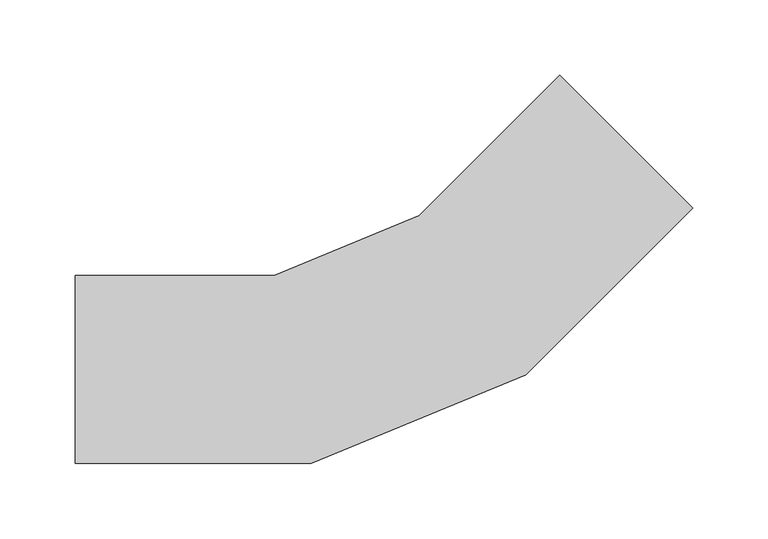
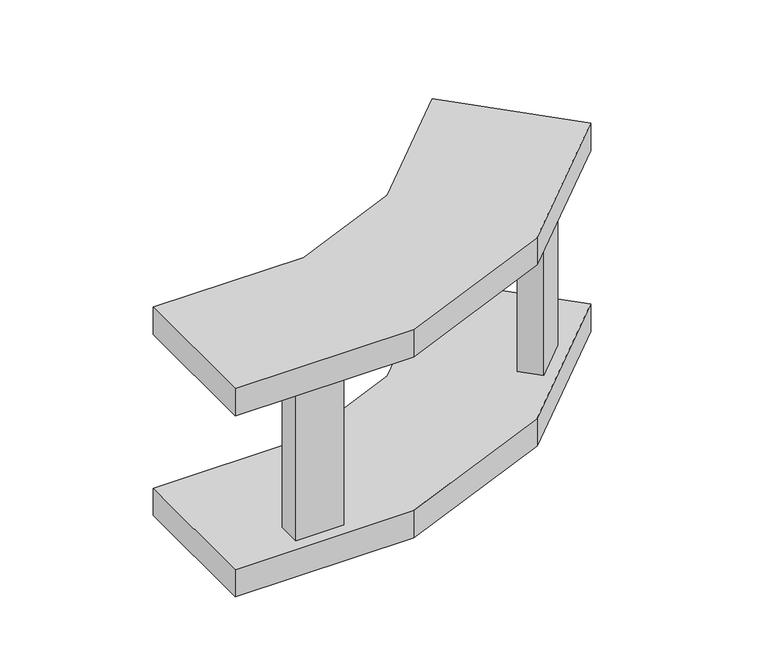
"""IFC4 building model written with IfcOpenShell, lengths in millimetres: cable carrier fitting geometry, Legrand_CableLadder_Swifts_Sapphire_InsideRiser-13 : Hot Dip Galvanised (after manufacture)."""

from ifc_helpers import new_model, si_unit, frame, origin, place, context, project, spatial, polyline, outline, extrude, source, transform, mapped, element, save


def cable_carrier_fitting_424e6675(model_context):
    return source(origin(), model_context, "Body", "SweptSolid", [
        extrude(outline(polyline([(-155.8265146, -31.5), (-113.8265146, -31.5), (-113.8265146, -52.5), (-155.8265146, -52.5), (-155.8265146, -31.5)])), frame((0.0, 0.0, -71.5), z_axis=(0.0, 0.0, 1.0), x_axis=(1.0, 0.0, 0.0)), (0.0, 0.0, 1.0), 143.0),
        extrude(outline(polyline([(102.7613639, 58.2136367), (132.4598487, 87.9121215), (147.3090911, 73.0628791), (117.6106063, 43.3643943), (102.7613639, 58.2136367)])), frame((0.0, 0.0, -71.5), z_axis=(0.0, 0.0, 1.0), x_axis=(1.0, 0.0, 0.0)), (0.0, 0.0, 1.0), 143.0),
        extrude(outline(polyline([(-57.648516, -62.5), (-214.8265146, -62.5), (-214.8265146, 62.5), (-82.5125619, 62.5), (14.1510183, 102.5393659), (107.7111114, 196.099459), (196.099459, 107.7111114), (84.9578304, -3.4305172), (-57.648516, -62.5)])), frame((0.0, 0.0, -97.0), z_axis=(0.0, 0.0, 1.0), x_axis=(1.0, 0.0, 0.0)), (0.0, 0.0, 1.0), 25.5),
        extrude(outline(polyline([(-214.8265146, -62.5), (-214.8265146, 62.5), (-82.5125619, 62.5), (14.1510183, 102.5393659), (107.7111114, 196.099459), (196.099459, 107.7111114), (84.9578304, -3.4305172), (-57.648516, -62.5), (-214.8265146, -62.5)])), frame((0.0, 0.0, 71.5), z_axis=(0.0, 0.0, 1.0), x_axis=(1.0, 0.0, 0.0)), (0.0, 0.0, 1.0), 25.5),
    ])


if __name__ == "__main__":
    model = new_model("IFC4")
    model_context = context("Model", 3, world=origin())
    ifc_project = project(units=[si_unit("LENGTHUNIT", "METRE", prefix="MILLI")], contexts=[model_context])
    site = spatial("IfcSite", under=ifc_project)
    building = spatial("IfcBuilding", under=site)
    placement = place(None, origin())
    cable_carrier_fitting_shape = cable_carrier_fitting_424e6675(model_context)
    element("IfcCableCarrierFitting", 1, ObjectType="Legrand_CableLadder_Swifts_Sapphire_InsideRiser-13 : Hot Dip Galvanised (after manufacture)", at=placement, inside=building, context=model_context, shape_type="MappedRepresentation", body=[
        mapped(cable_carrier_fitting_shape, transform((0.0, 0.0, 0.0), x_axis=(1.0, 0.0, 0.0), y_axis=(0.0, 1.0, 0.0), z_axis=(0.0, 0.0, 1.0))),
    ])
    save(model, "model.ifc")
